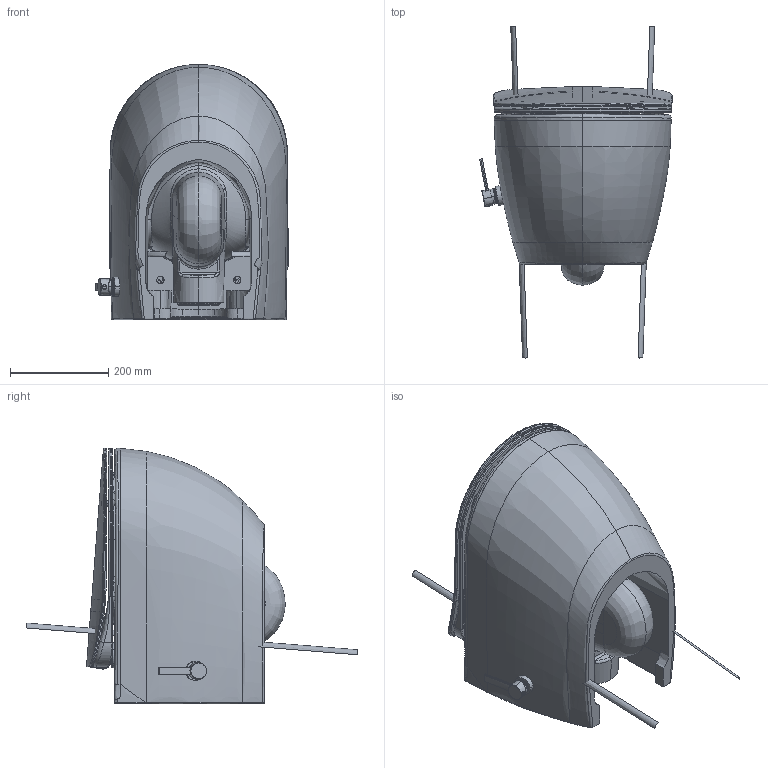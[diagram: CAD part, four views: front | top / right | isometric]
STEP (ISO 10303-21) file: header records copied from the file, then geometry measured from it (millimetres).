
FILE_DESCRIPTION (( 'STEP AP203' ), '1' );
FILE_NAME ('FE322-34CB00E-0001+KC0903.02.0000E.STEP', '2022-08-18T08:59:30', ( '' ), ( '' ), 'SwSTEP 2.0', 'SolidWorks 2021', '' );
FILE_SCHEMA (( 'CONFIG_CONTROL_DESIGN' ));
Products named in the file (1): FE322-34CB00E-0001+KC0903.02.0000E
Bounding box: 392.62 x 676.38 x 519.9 mm (x, y, z)
Volume: 7709483.2 mm3; surface area: 2383683.3 mm2
Topology: 41 solids, 46 shells, 2357 faces, 6117 edges, 3872 vertices
Faces by surface type: bspline 1202, cylinder 503, plane 433, torus 130, cone 50, sphere 39
Entity records: 878927 total; most frequent: CARTESIAN_POINT 831328, ORIENTED_EDGE 12064, DIRECTION 6658, EDGE_CURVE 6032, VERTEX_POINT 3847, B_SPLINE_CURVE_WITH_KNOTS 3112, AXIS2_PLACEMENT_3D 2695, EDGE_LOOP 2495
